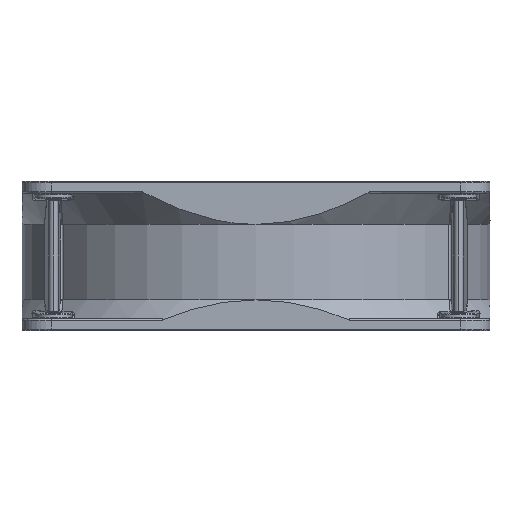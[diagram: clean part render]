
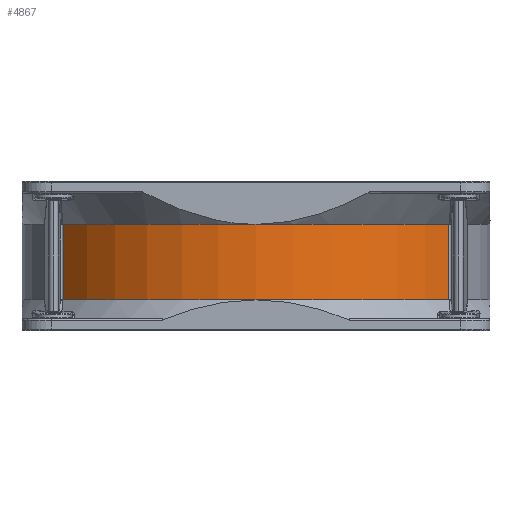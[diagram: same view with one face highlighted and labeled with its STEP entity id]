
A CAD part, front view. The second image highlights one B-rep face of the part: STEP entity #4867.
In plain terms, the highlighted cylindrical face has radius 80 mm (diameter 160 mm), a partial arc.
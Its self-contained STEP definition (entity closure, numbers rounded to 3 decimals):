
#15 = DIRECTION ( 'NONE',  ( 1., 0., 0. ) ) ;
#914 = EDGE_CURVE ( 'NONE', #51243, #39417, #18578, .T. ) ;
#1599 = DIRECTION ( 'NONE',  ( -1., 0., 0. ) ) ;
#1817 = CARTESIAN_POINT ( 'NONE',  ( 0., 0., -56.002 ) ) ;
#2087 = DIRECTION ( 'NONE',  ( 0., 0., -1. ) ) ;
#2364 = FACE_OUTER_BOUND ( 'NONE', #17606, .T. ) ;
#2435 = EDGE_CURVE ( 'NONE', #54288, #14491, #34675, .T. ) ;
#3491 = CARTESIAN_POINT ( 'NONE',  ( 0., 0., -40.5 ) ) ;
#3678 = DIRECTION ( 'NONE',  ( 0., 0., 1. ) ) ;
#4006 = EDGE_CURVE ( 'NONE', #13589, #51243, #9116, .T. ) ;
#4224 = CARTESIAN_POINT ( 'NONE',  ( 0., 0., -14.7 ) ) ;
#4867 = ADVANCED_FACE ( 'NONE', ( #2364 ), #31627, .T. ) ;
#6457 = EDGE_CURVE ( 'NONE', #14491, #12174, #29566, .T. ) ;
#8878 = AXIS2_PLACEMENT_3D ( 'NONE', #22975, #43249, #1599 ) ;
#9116 = CIRCLE ( 'NONE', #15415, 80. ) ;
#10974 = CARTESIAN_POINT ( 'NONE',  ( -65.974, -45.249, -40.5 ) ) ;
#12174 = VERTEX_POINT ( 'NONE', #44438 ) ;
#13524 = EDGE_CURVE ( 'NONE', #13589, #54288, #18991, .T. ) ;
#13589 = VERTEX_POINT ( 'NONE', #38109 ) ;
#13705 = CARTESIAN_POINT ( 'NONE',  ( 65.974, -45.249, -14.7 ) ) ;
#13997 = ORIENTED_EDGE ( 'NONE', *, *, #6457, .T. ) ;
#14491 = VERTEX_POINT ( 'NONE', #44009 ) ;
#15415 = AXIS2_PLACEMENT_3D ( 'NONE', #22640, #31063, #27126 ) ;
#16423 = DIRECTION ( 'NONE',  ( -1., 0., 0. ) ) ;
#17606 = EDGE_LOOP ( 'NONE', ( #33223, #24359, #13997, #22768, #28542, #22967 ) ) ;
#18578 = CIRCLE ( 'NONE', #34757, 80. ) ;
#18991 = LINE ( 'NONE', #49419, #45038 ) ;
#19074 = LINE ( 'NONE', #36246, #27784 ) ;
#20654 = DIRECTION ( 'NONE',  ( 0., 0., 1. ) ) ;
#22640 = CARTESIAN_POINT ( 'NONE',  ( 0., 0., -14.7 ) ) ;
#22768 = ORIENTED_EDGE ( 'NONE', *, *, #26123, .T. ) ;
#22967 = ORIENTED_EDGE ( 'NONE', *, *, #4006, .F. ) ;
#22975 = CARTESIAN_POINT ( 'NONE',  ( 0., 0., -40.5 ) ) ;
#24359 = ORIENTED_EDGE ( 'NONE', *, *, #2435, .T. ) ;
#26123 = EDGE_CURVE ( 'NONE', #12174, #39417, #19074, .T. ) ;
#26725 = CARTESIAN_POINT ( 'NONE',  ( 0., -80., -14.7 ) ) ;
#27126 = DIRECTION ( 'NONE',  ( 1., 0., 0. ) ) ;
#27784 = VECTOR ( 'NONE', #53444, 1000. ) ;
#28542 = ORIENTED_EDGE ( 'NONE', *, *, #914, .F. ) ;
#29566 = CIRCLE ( 'NONE', #8878, 80. ) ;
#31063 = DIRECTION ( 'NONE',  ( 0., 0., 1. ) ) ;
#31627 = CYLINDRICAL_SURFACE ( 'NONE', #36080, 80. ) ;
#33223 = ORIENTED_EDGE ( 'NONE', *, *, #13524, .T. ) ;
#34409 = AXIS2_PLACEMENT_3D ( 'NONE', #3491, #20654, #16423 ) ;
#34675 = CIRCLE ( 'NONE', #34409, 80. ) ;
#34757 = AXIS2_PLACEMENT_3D ( 'NONE', #4224, #3678, #15 ) ;
#36080 = AXIS2_PLACEMENT_3D ( 'NONE', #1817, #2087, #36685 ) ;
#36246 = CARTESIAN_POINT ( 'NONE',  ( 65.974, -45.249, -56.002 ) ) ;
#36685 = DIRECTION ( 'NONE',  ( -1., 0., 0. ) ) ;
#38109 = CARTESIAN_POINT ( 'NONE',  ( -65.974, -45.249, -14.7 ) ) ;
#39417 = VERTEX_POINT ( 'NONE', #13705 ) ;
#40934 = DIRECTION ( 'NONE',  ( 0., 0., -1. ) ) ;
#43249 = DIRECTION ( 'NONE',  ( 0., 0., 1. ) ) ;
#44009 = CARTESIAN_POINT ( 'NONE',  ( 0., -80., -40.5 ) ) ;
#44438 = CARTESIAN_POINT ( 'NONE',  ( 65.974, -45.249, -40.5 ) ) ;
#45038 = VECTOR ( 'NONE', #40934, 1000. ) ;
#49419 = CARTESIAN_POINT ( 'NONE',  ( -65.974, -45.249, -56.002 ) ) ;
#51243 = VERTEX_POINT ( 'NONE', #26725 ) ;
#53444 = DIRECTION ( 'NONE',  ( 0., 0., 1. ) ) ;
#54288 = VERTEX_POINT ( 'NONE', #10974 ) ;
